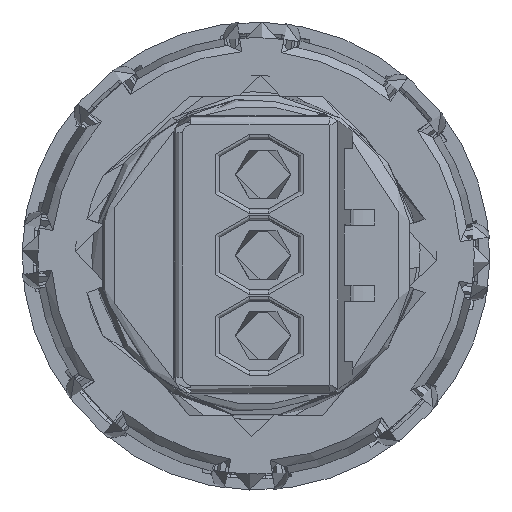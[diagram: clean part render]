
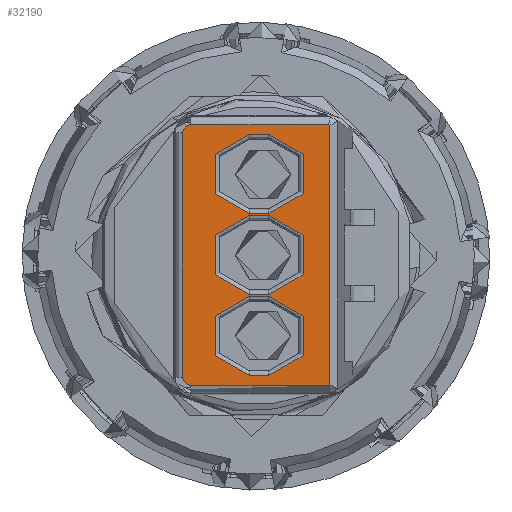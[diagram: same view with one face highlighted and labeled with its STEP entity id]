
A CAD part, top view. The second image highlights one B-rep face of the part: STEP entity #32190.
In plain terms, the highlighted planar face has unit normal (0, 0, 1).
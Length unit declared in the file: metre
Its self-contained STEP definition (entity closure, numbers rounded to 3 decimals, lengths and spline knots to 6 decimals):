
#30725=CARTESIAN_POINT('',(-0.0004,-0.0076,0.0113));
#30726=VERTEX_POINT('',#30725);
#30731=CARTESIAN_POINT('',(-0.0052,-0.0076,0.0113));
#30732=DIRECTION('',(1.,0.,0.));
#30733=VECTOR('',#30732,1.);
#30734=LINE('',#30731,#30733);
#30735=CARTESIAN_POINT('',(0.0008,-0.0076,0.0113));
#30736=VERTEX_POINT('',#30735);
#30737=EDGE_CURVE('',#30726,#30736,#30734,.T.);
#30926=CARTESIAN_POINT('',(0.0008,-0.0026,0.0113));
#30927=VERTEX_POINT('',#30926);
#30932=CARTESIAN_POINT('',(0.0008,-0.0051,0.0113));
#30933=DIRECTION('',(0.,0.,-1.));
#30934=DIRECTION('',(0.,1.,0.));
#30935=AXIS2_PLACEMENT_3D('',#30932,#30933,#30934);
#30936=CIRCLE('',#30935,0.0025);
#30937=EDGE_CURVE('',#30927,#30736,#30936,.T.);
#30956=CARTESIAN_POINT('',(-0.0052,-0.0026,0.0113));
#30957=DIRECTION('',(1.,0.,0.));
#30958=VECTOR('',#30957,1.);
#30959=LINE('',#30956,#30958);
#30960=CARTESIAN_POINT('',(-0.0004,-0.0026,0.0113));
#30961=VERTEX_POINT('',#30960);
#30962=EDGE_CURVE('',#30961,#30927,#30959,.T.);
#30989=CARTESIAN_POINT('',(-0.0004,-0.0051,0.0113));
#30990=DIRECTION('',(0.,0.,-1.));
#30991=DIRECTION('',(0.,1.,0.));
#30992=AXIS2_PLACEMENT_3D('',#30989,#30990,#30991);
#30993=CIRCLE('',#30992,0.0025);
#30994=EDGE_CURVE('',#30726,#30961,#30993,.T.);
#31056=CARTESIAN_POINT('',(0.004565,-0.008217,0.0113));
#31057=VERTEX_POINT('',#31056);
#31092=CARTESIAN_POINT('',(0.004655,-0.008167,0.0113));
#31093=VERTEX_POINT('',#31092);
#31096=CARTESIAN_POINT('',(0.,0.,0.0113));
#31097=DIRECTION('',(0.,0.,-1.));
#31098=DIRECTION('',(0.,1.,0.));
#31099=AXIS2_PLACEMENT_3D('',#31096,#31097,#31098);
#31100=CIRCLE('',#31099,0.0094);
#31101=EDGE_CURVE('',#31093,#31057,#31100,.T.);
#31126=CARTESIAN_POINT('',(-0.004117,-0.008217,0.0113));
#31127=VERTEX_POINT('',#31126);
#31137=CARTESIAN_POINT('',(-0.004113,-0.008217,0.0113));
#31138=DIRECTION('',(1.,0.,0.));
#31139=VECTOR('',#31138,1.);
#31140=LINE('',#31137,#31139);
#31141=EDGE_CURVE('',#31127,#31057,#31140,.T.);
#31696=CARTESIAN_POINT('',(-0.0004,0.0076,0.0113));
#31697=VERTEX_POINT('',#31696);
#31706=CARTESIAN_POINT('',(0.0008,0.0076,0.0113));
#31707=VERTEX_POINT('',#31706);
#31710=CARTESIAN_POINT('',(-0.0052,0.0076,0.0113));
#31711=DIRECTION('',(1.,0.,0.));
#31712=VECTOR('',#31711,1.);
#31713=LINE('',#31710,#31712);
#31714=EDGE_CURVE('',#31697,#31707,#31713,.T.);
#31737=CARTESIAN_POINT('',(0.0008,0.0026,0.0113));
#31738=VERTEX_POINT('',#31737);
#31741=CARTESIAN_POINT('',(0.0008,0.0051,0.0113));
#31742=DIRECTION('',(0.,0.,1.));
#31743=DIRECTION('',(0.,-1.,0.));
#31744=AXIS2_PLACEMENT_3D('',#31741,#31742,#31743);
#31745=CIRCLE('',#31744,0.0025);
#31746=EDGE_CURVE('',#31738,#31707,#31745,.T.);
#31773=CARTESIAN_POINT('',(-0.0004,0.0026,0.0113));
#31774=VERTEX_POINT('',#31773);
#31777=CARTESIAN_POINT('',(-0.0052,0.0026,0.0113));
#31778=DIRECTION('',(1.,0.,0.));
#31779=VECTOR('',#31778,1.);
#31780=LINE('',#31777,#31779);
#31781=EDGE_CURVE('',#31774,#31738,#31780,.T.);
#31802=CARTESIAN_POINT('',(-0.0004,0.0051,0.0113));
#31803=DIRECTION('',(0.,0.,1.));
#31804=DIRECTION('',(0.,-1.,0.));
#31805=AXIS2_PLACEMENT_3D('',#31802,#31803,#31804);
#31806=CIRCLE('',#31805,0.0025);
#31807=EDGE_CURVE('',#31697,#31774,#31806,.T.);
#31830=CARTESIAN_POINT('',(0.0008,-0.0025,0.0113));
#31831=VERTEX_POINT('',#31830);
#31849=CARTESIAN_POINT('',(-0.0004,-0.0025,0.0113));
#31850=VERTEX_POINT('',#31849);
#31853=CARTESIAN_POINT('',(0.0008,-0.0025,0.0113));
#31854=DIRECTION('',(-1.,0.,0.));
#31855=VECTOR('',#31854,1.);
#31856=LINE('',#31853,#31855);
#31857=EDGE_CURVE('',#31831,#31850,#31856,.T.);
#32032=CARTESIAN_POINT('',(-0.0004,0.0025,0.0113));
#32033=VERTEX_POINT('',#32032);
#32036=CARTESIAN_POINT('',(-0.0004,0.,0.0113));
#32037=DIRECTION('',(0.,0.,1.));
#32038=DIRECTION('',(0.,-1.,0.));
#32039=AXIS2_PLACEMENT_3D('',#32036,#32037,#32038);
#32040=CIRCLE('',#32039,0.0025);
#32041=EDGE_CURVE('',#32033,#31850,#32040,.T.);
#32065=CARTESIAN_POINT('',(0.0008,0.0025,0.0113));
#32066=VERTEX_POINT('',#32065);
#32069=CARTESIAN_POINT('',(0.0008,0.0025,0.0113));
#32070=DIRECTION('',(-1.,0.,0.));
#32071=VECTOR('',#32070,1.);
#32072=LINE('',#32069,#32071);
#32073=EDGE_CURVE('',#32066,#32033,#32072,.T.);
#32093=CARTESIAN_POINT('',(0.0008,0.,0.0113));
#32094=DIRECTION('',(0.,0.,1.));
#32095=DIRECTION('',(0.,-1.,0.));
#32096=AXIS2_PLACEMENT_3D('',#32093,#32094,#32095);
#32097=CIRCLE('',#32096,0.0025);
#32098=EDGE_CURVE('',#31831,#32066,#32097,.T.);
#32114=CARTESIAN_POINT('',(-0.0052,-0.0088,0.0113));
#32115=DIRECTION('',(0.,0.,1.));
#32116=DIRECTION('',(0.,1.,0.));
#32117=AXIS2_PLACEMENT_3D('',#32114,#32115,#32116);
#32118=PLANE('',#32117);
#32119=ORIENTED_EDGE('',*,*,#32098,.F.);
#32120=ORIENTED_EDGE('',*,*,#31857,.T.);
#32121=ORIENTED_EDGE('',*,*,#32041,.F.);
#32122=ORIENTED_EDGE('',*,*,#32073,.F.);
#32123=EDGE_LOOP('',(#32119,#32120,#32121,#32122));
#32124=FACE_BOUND('',#32123,.T.);
#32125=ORIENTED_EDGE('',*,*,#31807,.F.);
#32126=ORIENTED_EDGE('',*,*,#31714,.T.);
#32127=ORIENTED_EDGE('',*,*,#31746,.F.);
#32128=ORIENTED_EDGE('',*,*,#31781,.F.);
#32129=EDGE_LOOP('',(#32125,#32126,#32127,#32128));
#32130=FACE_BOUND('',#32129,.T.);
#32131=CARTESIAN_POINT('',(0.004655,0.008478,0.0113));
#32132=DIRECTION('',(0.,-1.,0.));
#32133=VECTOR('',#32132,1.);
#32134=LINE('',#32131,#32133);
#32135=CARTESIAN_POINT('',(0.004655,0.008167,0.0113));
#32136=VERTEX_POINT('',#32135);
#32137=EDGE_CURVE('',#32136,#31093,#32134,.T.);
#32138=ORIENTED_EDGE('',*,*,#32137,.F.);
#32139=CARTESIAN_POINT('',(0.,0.,0.0113));
#32140=DIRECTION('',(0.,0.,1.));
#32141=DIRECTION('',(0.,-1.,0.));
#32142=AXIS2_PLACEMENT_3D('',#32139,#32140,#32141);
#32143=CIRCLE('',#32142,0.0094);
#32144=CARTESIAN_POINT('',(0.004565,0.008217,0.0113));
#32145=VERTEX_POINT('',#32144);
#32146=EDGE_CURVE('',#32136,#32145,#32143,.T.);
#32147=ORIENTED_EDGE('',*,*,#32146,.T.);
#32148=CARTESIAN_POINT('',(-0.004113,0.008217,0.0113));
#32149=DIRECTION('',(1.,0.,0.));
#32150=VECTOR('',#32149,1.);
#32151=LINE('',#32148,#32150);
#32152=CARTESIAN_POINT('',(-0.004117,0.008217,0.0113));
#32153=VERTEX_POINT('',#32152);
#32154=EDGE_CURVE('',#32153,#32145,#32151,.T.);
#32155=ORIENTED_EDGE('',*,*,#32154,.F.);
#32156=CARTESIAN_POINT('',(-0.004117,0.007717,0.0113));
#32157=DIRECTION('',(0.,0.,1.));
#32158=DIRECTION('',(0.707,-0.707,0.));
#32159=AXIS2_PLACEMENT_3D('',#32156,#32157,#32158);
#32160=ELLIPSE('',#32159,0.0005,0.0005);
#32161=CARTESIAN_POINT('',(-0.004617,0.007717,0.0113));
#32162=VERTEX_POINT('',#32161);
#32163=EDGE_CURVE('',#32153,#32162,#32160,.T.);
#32164=ORIENTED_EDGE('',*,*,#32163,.T.);
#32165=CARTESIAN_POINT('',(-0.004617,-0.007713,0.0113));
#32166=DIRECTION('',(0.,1.,0.));
#32167=VECTOR('',#32166,1.);
#32168=LINE('',#32165,#32167);
#32169=CARTESIAN_POINT('',(-0.004617,-0.007717,0.0113));
#32170=VERTEX_POINT('',#32169);
#32171=EDGE_CURVE('',#32170,#32162,#32168,.T.);
#32172=ORIENTED_EDGE('',*,*,#32171,.F.);
#32173=CARTESIAN_POINT('',(-0.004117,-0.007717,0.0113));
#32174=DIRECTION('',(0.,0.,-1.));
#32175=DIRECTION('',(0.707,0.707,0.));
#32176=AXIS2_PLACEMENT_3D('',#32173,#32174,#32175);
#32177=ELLIPSE('',#32176,0.0005,0.0005);
#32178=EDGE_CURVE('',#31127,#32170,#32177,.T.);
#32179=ORIENTED_EDGE('',*,*,#32178,.F.);
#32180=ORIENTED_EDGE('',*,*,#31141,.T.);
#32181=ORIENTED_EDGE('',*,*,#31101,.F.);
#32182=EDGE_LOOP('',(#32138,#32147,#32155,#32164,#32172,#32179,#32180,#32181));
#32183=FACE_BOUND('',#32182,.T.);
#32184=ORIENTED_EDGE('',*,*,#30994,.T.);
#32185=ORIENTED_EDGE('',*,*,#30962,.T.);
#32186=ORIENTED_EDGE('',*,*,#30937,.T.);
#32187=ORIENTED_EDGE('',*,*,#30737,.F.);
#32188=EDGE_LOOP('',(#32184,#32185,#32186,#32187));
#32189=FACE_BOUND('',#32188,.T.);
#32190=ADVANCED_FACE('',(#32124,#32130,#32183,#32189),#32118,.T.);
